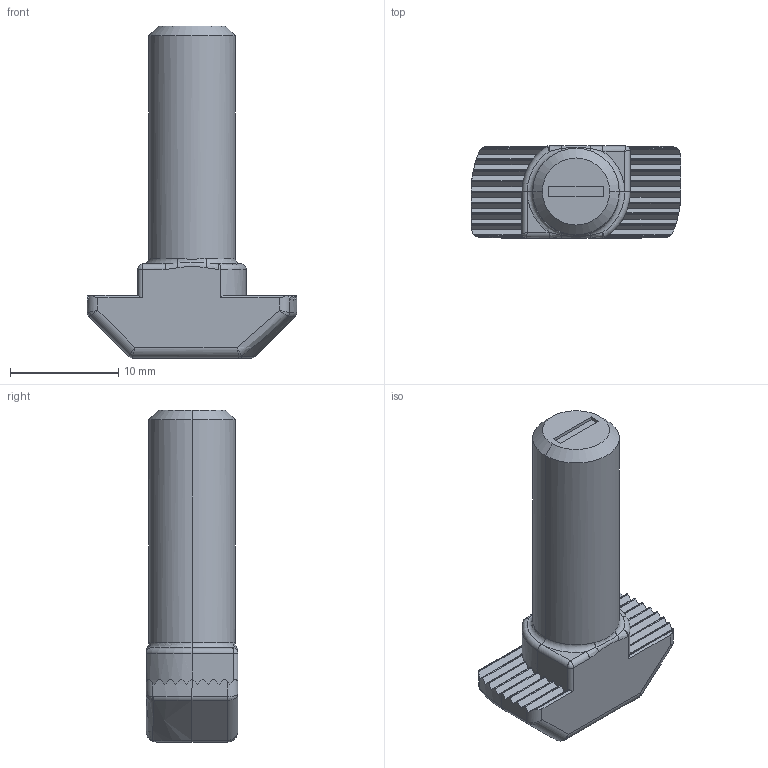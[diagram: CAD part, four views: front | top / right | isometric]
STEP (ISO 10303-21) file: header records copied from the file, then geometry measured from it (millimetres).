
FILE_DESCRIPTION(('STEP AP214'),'1');
FILE_NAME('C:/TPO v2/SharedFS/Outgoing/fath_096hk1030m0825.stp','2016-05-10T08:26:21',('TraceParts'),('TraceParts S.A.'),'Spatial InterOp 3D',' ',' ');
FILE_SCHEMA(('automotive_design'));
Length unit declared in the file: millimetre
Products named in the file (1): Sichtkerbe
Bounding box: 19.4 x 8.5 x 30.7 mm (x, y, z)
Volume: 2099.5 mm3; surface area: 1199.2 mm2
Topology: 1 solids, 1 shells, 153 faces, 400 edges, 240 vertices
Faces by surface type: cylinder 62, plane 53, bspline 24, torus 10, cone 4
Entity records: 6711 total; most frequent: CARTESIAN_POINT 2154, ORIENTED_EDGE 780, DIRECTION 594, EDGE_CURVE 390, VERTEX_POINT 240, AXIS2_PLACEMENT_3D 214, LINE 166, VECTOR 166
